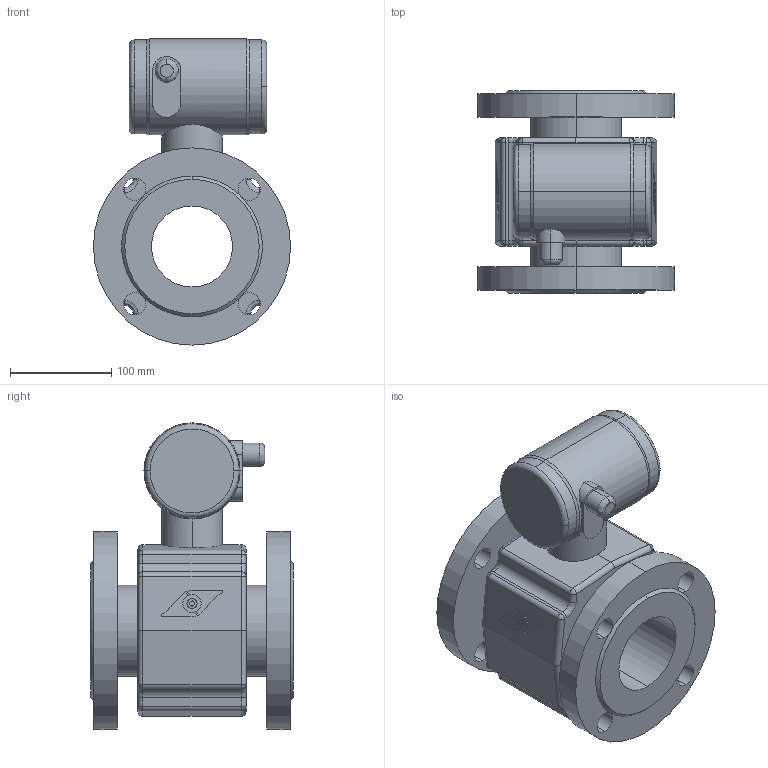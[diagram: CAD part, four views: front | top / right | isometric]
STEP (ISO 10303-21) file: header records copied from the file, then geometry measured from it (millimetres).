
FILE_DESCRIPTION (( 'STEP AP203' ), '1' );
FILE_NAME ('PC80-GOST_12820.STEP', '2015-11-06T13:17:09', ( '' ), ( '' ), 'SwSTEP 2.0', 'SolidWorks 2015', '' );
FILE_SCHEMA (( 'CONFIG_CONTROL_DESIGN' ));
Length unit declared in the file: millimetre
Products named in the file (2): PC80-GOST_12820
Bounding box: 195 x 200 x 302.8 mm (x, y, z)
Volume: 4190770.8 mm3; surface area: 344360.5 mm2
Topology: 1 solids, 1 shells, 201 faces, 486 edges, 296 vertices
Faces by surface type: cylinder 99, plane 55, bspline 37, cone 10
Entity records: 6983 total; most frequent: CARTESIAN_POINT 2231, ORIENTED_EDGE 972, DIRECTION 964, EDGE_CURVE 486, AXIS2_PLACEMENT_3D 373, VERTEX_POINT 296, EDGE_LOOP 228, VECTOR 218
